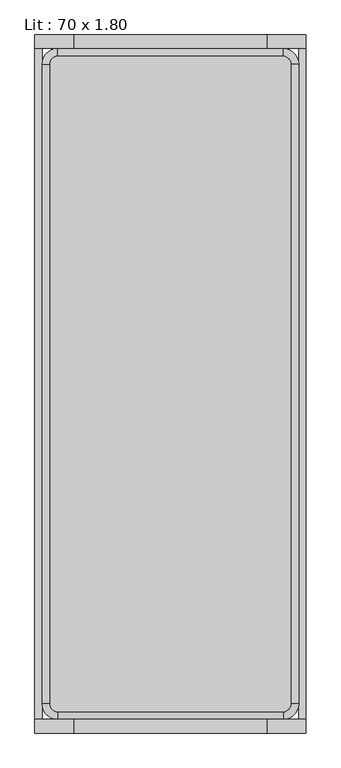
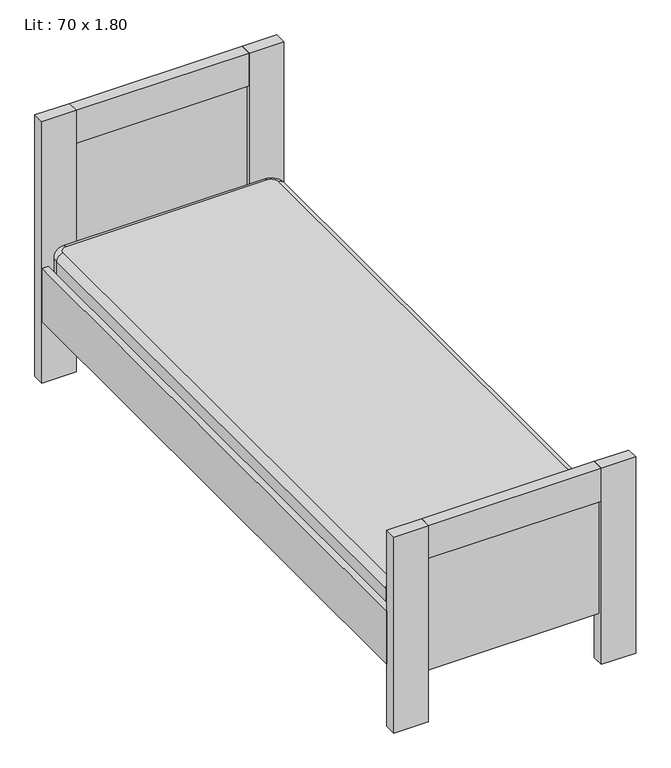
"""IFC4 building model written with IfcOpenShell, lengths in millimetres: furniture geometry, Lit : 70 x 1.80."""

import ifcopenshell
import ifcopenshell.guid

model = None  # the IFC model being written
_history = None  # IfcOwnerHistory: only IFC2X3 demands one
_inside = {}  # id of a spatial element -> (the spatial element, [elements in it])
_under = {}  # id of a project, library or spatial element -> (it, [spatial elements below it])
_declared = {}  # id of a project -> (the project, [libraries it declares])
_typed = {}  # id of a type object -> (the type object, [elements of that type])
_made_of = {}  # id of a material, layer set ... -> (it, [elements and type objects made of it])


def new_model(schema):
    """Start an empty IFC model of exactly this schema.

    Asked for "IFC4X3", IfcOpenShell would pick the latest addendum, in which some entities
    have other attributes; the version numbers below select the first issue.
    IFC2X3 requires an IfcOwnerHistory on every rooted entity: one is made here for all.
    """
    global model, _history
    if schema == "IFC4X3":
        model = ifcopenshell.file(schema_version=(4, 3, 0, 0))
    else:
        model = ifcopenshell.file(schema=schema)
    _inside.clear()
    _under.clear()
    _declared.clear()
    _typed.clear()
    _made_of.clear()
    _history = None
    if model.schema == "IFC2X3":
        org = make("IfcOrganization", Name="unknown")
        user = make(
            "IfcPersonAndOrganization",
            ThePerson=make("IfcPerson", FamilyName="unknown"),
            TheOrganization=org,
        )
        app = make(
            "IfcApplication",
            ApplicationDeveloper=org,
            Version="unknown",
            ApplicationFullName="unknown",
            ApplicationIdentifier="unknown",
        )
        _history = make(
            "IfcOwnerHistory",
            OwningUser=user,
            OwningApplication=app,
            ChangeAction="ADDED",
            CreationDate=0,
        )
    return model


def make(cls, **values):
    """One entity of the class cls with the attributes given. An attribute that is None is left unset."""
    return model.create_entity(
        cls, **{name: value for name, value in values.items() if value is not None}
    )


def rooted(cls, **values):
    """An entity with a GlobalId (a new one), such as an element, a storey or a relation."""
    return make(cls, GlobalId=ifcopenshell.guid.new(), OwnerHistory=_history, **values)


def si_unit(unit_type, name, prefix=None):
    """IfcSIUnit, for example si_unit("LENGTHUNIT", "METRE", prefix="MILLI")."""
    return make("IfcSIUnit", UnitType=unit_type, Prefix=prefix, Name=name)


def assignment(units):
    """IfcUnitAssignment: the units of a project."""
    return None if units is None else make("IfcUnitAssignment", Units=units)


def point(xyz):
    """IfcCartesianPoint."""
    return None if xyz is None else make("IfcCartesianPoint", Coordinates=xyz)


def direction(xyz):
    """IfcDirection."""
    return None if xyz is None else make("IfcDirection", DirectionRatios=xyz)


def frame(location, z_axis=None, x_axis=None):
    """IfcAxis2Placement3D, a coordinate frame: its origin and axes. An axis left out is left unset."""
    return make(
        "IfcAxis2Placement3D",
        Location=point(location),
        Axis=direction(z_axis),
        RefDirection=direction(x_axis),
    )


def origin():
    """The frame at (0, 0, 0) with its axes left unset."""
    return frame((0.0, 0.0, 0.0))


def place(relative_to, where):
    """IfcLocalPlacement: puts the frame where relative to a parent placement (None: the world)."""
    return make(
        "IfcLocalPlacement", PlacementRelTo=relative_to, RelativePlacement=where
    )


def context(
    kind, dimensions, precision=None, world=None, true_north=None, identifier=None
):
    """IfcGeometricRepresentationContext, for example the 3D "Model" context."""
    return make(
        "IfcGeometricRepresentationContext",
        ContextIdentifier=identifier,
        ContextType=kind,
        CoordinateSpaceDimension=dimensions,
        Precision=precision,
        WorldCoordinateSystem=world,
        TrueNorth=true_north,
    )


def project(units=None, contexts=None):
    """IfcProject with its units and contexts."""
    return rooted(
        "IfcProject",
        Name="project",
        RepresentationContexts=contexts,
        UnitsInContext=assignment(units),
    )


def spatial(cls, under=None, at=None, **own):
    """A site, building, storey or space (cls), placed at a placement, below another one or the project."""
    s = rooted(cls, ObjectPlacement=at, **own)
    if under is not None:
        _under.setdefault(under.id(), (under, []))[1].append(s)
    return s


def polyline(points):
    """IfcPolyline through the points."""
    return make("IfcPolyline", Points=[point(p) for p in points])


def circle_curve(where, radius):
    """IfcCircle in the frame where."""
    return make("IfcCircle", Position=where, Radius=radius)


def ellipse_curve(where, semi_axis1, semi_axis2):
    """IfcEllipse in the frame where."""
    return make(
        "IfcEllipse", Position=where, SemiAxis1=semi_axis1, SemiAxis2=semi_axis2
    )


def trimmed(basis, trim1, trim2, sense, master):
    """IfcTrimmedCurve: the piece of a basis curve between two trims."""
    return make(
        "IfcTrimmedCurve",
        BasisCurve=basis,
        Trim1=trim1,
        Trim2=trim2,
        SenseAgreement=sense,
        MasterRepresentation=master,
    )


def outline(outer, holes=None, kind="AREA"):
    """IfcArbitraryClosedProfileDef: a profile drawn as a closed curve; with holes, ...WithVoids."""
    if holes is None:
        return make("IfcArbitraryClosedProfileDef", ProfileType=kind, OuterCurve=outer)
    return make(
        "IfcArbitraryProfileDefWithVoids",
        ProfileType=kind,
        OuterCurve=outer,
        InnerCurves=holes,
    )


def extrude(swept, where, along, depth):
    """IfcExtrudedAreaSolid: the profile swept, set in the frame where, extruded along a direction by depth."""
    return make(
        "IfcExtrudedAreaSolid",
        SweptArea=swept,
        Position=where,
        ExtrudedDirection=direction(along),
        Depth=depth,
    )


def faces_of(points, faces, orient=None, outer=None):
    """IfcFace entities. A face is a list of loops; a loop is a list of indices into points, from 0.

    orient and outer hold one flag for each loop. By default every Orientation is true, the
    first loop of a face is its IfcFaceOuterBound and the others are IfcFaceBound.
    """
    made = []
    for i, loops in enumerate(faces):
        bounds = []
        for j, loop in enumerate(loops):
            is_outer = j == 0 if outer is None else outer[i][j]
            bounds.append(
                make(
                    "IfcFaceOuterBound" if is_outer else "IfcFaceBound",
                    Bound=make("IfcPolyLoop", Polygon=[points[k] for k in loop]),
                    Orientation=True if orient is None else orient[i][j],
                )
            )
        made.append(make("IfcFace", Bounds=bounds))
    return made


def faceted_brep(points, faces, orient=None, outer=None, voids=None):
    """IfcFacetedBrep: a solid bounded by flat faces; with voids (closed shells), ...WithVoids."""
    shared = [point(p) for p in points]
    hull = make("IfcClosedShell", CfsFaces=faces_of(shared, faces, orient, outer))
    if voids is None:
        return make("IfcFacetedBrep", Outer=hull)
    return make(
        "IfcFacetedBrepWithVoids",
        Outer=hull,
        Voids=[
            make(cls, CfsFaces=faces_of(shared, fs, o, b)) for cls, fs, o, b in voids
        ],
    )


def shape(context_of_items, identifier, shape_type, items):
    """IfcShapeRepresentation: the items that make up one representation, for example the "Body"."""
    return make(
        "IfcShapeRepresentation",
        ContextOfItems=context_of_items,
        RepresentationIdentifier=identifier,
        RepresentationType=shape_type,
        Items=items,
    )


def source(mapping_origin, context_of_items, identifier, shape_type, items):
    """IfcRepresentationMap: a shape defined once, which mapped items show again and again."""
    return make(
        "IfcRepresentationMap",
        MappingOrigin=mapping_origin,
        MappedRepresentation=shape(context_of_items, identifier, shape_type, items),
    )


def transform(
    local_origin,
    x_axis=None,
    y_axis=None,
    z_axis=None,
    scale=None,
    scale2=None,
    scale3=None,
    uniform=True,
):
    """IfcCartesianTransformationOperator3D, or its non-uniform kind. x_axis, y_axis, z_axis: its Axis1, 2, 3."""
    if uniform:
        return make(
            "IfcCartesianTransformationOperator3D",
            Axis1=direction(x_axis),
            Axis2=direction(y_axis),
            LocalOrigin=point(local_origin),
            Scale=scale,
            Axis3=direction(z_axis),
        )
    return make(
        "IfcCartesianTransformationOperator3DnonUniform",
        Axis1=direction(x_axis),
        Axis2=direction(y_axis),
        LocalOrigin=point(local_origin),
        Scale=scale,
        Axis3=direction(z_axis),
        Scale2=scale2,
        Scale3=scale3,
    )


def mapped(mapping_source, mapping_target):
    """IfcMappedItem: shows the shape of a source again, moved by a transform."""
    return make(
        "IfcMappedItem", MappingSource=mapping_source, MappingTarget=mapping_target
    )


def made_of(thing, what):
    """Note that an element or type object is made of a material, layer set ...; save() writes the relation."""
    if what is not None:
        _made_of.setdefault(what.id(), (what, []))[1].append(thing)
    return thing


def element(
    cls,
    number,
    at=None,
    inside=None,
    cuts=None,
    type_object=None,
    material=None,
    context=None,
    identifier="Body",
    shape_type=None,
    held_by="IfcProductDefinitionShape",
    body=None,
    shapes=None,
    **own,
):
    """One element of the class cls, such as IfcWall. Its Tag is "e" and its number.

    at: its placement. inside: the storey or other place that contains it. cuts: it is an
    opening in that element (IfcRelVoidsElement). A single representation is given by context,
    identifier, shape_type and body (its items); several are given by shapes. held_by: the class
    of the entity that holds the representations. save() writes the other relations.
    """
    e = rooted(cls, Tag="e%d" % number, ObjectPlacement=at, **own)
    if body is not None:
        shapes = [shape(context, identifier, shape_type, body)]
    if shapes is not None:
        e.Representation = make(held_by, Representations=shapes)
    if inside is not None:
        _inside.setdefault(inside.id(), (inside, []))[1].append(e)
    if cuts is not None:
        rooted(
            "IfcRelVoidsElement", RelatingBuildingElement=cuts, RelatedOpeningElement=e
        )
    if type_object is not None:
        _typed.setdefault(type_object.id(), (type_object, []))[1].append(e)
    return made_of(e, material)


def aggregate(whole, parts):
    """IfcRelAggregates: a whole, such as a stair, and the parts it consists of."""
    return rooted("IfcRelAggregates", RelatingObject=whole, RelatedObjects=parts)


def save(model, path):
    """Write the relations noted so far, then the file.

    IfcRelAggregates (storeys below a building ...), IfcRelContainedInSpatialStructure (elements
    in a storey), IfcRelDefinesByType, IfcRelAssociatesMaterial and IfcRelDeclares: one each for
    every whole, place, type object, material and project.
    """
    for whole, parts in _under.values():
        aggregate(whole, parts)
    for where, things in _inside.values():
        rooted(
            "IfcRelContainedInSpatialStructure",
            RelatedElements=things,
            RelatingStructure=where,
        )
    for kind, things in _typed.values():
        rooted("IfcRelDefinesByType", RelatedObjects=things, RelatingType=kind)
    for what, things in _made_of.values():
        rooted("IfcRelAssociatesMaterial", RelatedObjects=things, RelatingMaterial=what)
    for by, libraries in _declared.values():
        rooted("IfcRelDeclares", RelatingContext=by, RelatedDefinitions=libraries)
    model.write(path)


def plane_surface(at):
    """IfcPlane: the flat surface through the origin of the frame at, square to its z axis."""
    return make("IfcPlane", Position=at)


def cylinder_surface(at, radius):
    """IfcCylindricalSurface: all points at the distance radius from the z axis of the frame at."""
    return make("IfcCylindricalSurface", Position=at, Radius=radius)


def revolved_surface(curve, axis_point, axis_direction):
    """IfcSurfaceOfRevolution: the curve turned about the line through axis_point along axis_direction."""
    return make(
        "IfcSurfaceOfRevolution",
        SweptCurve=make("IfcArbitraryOpenProfileDef", ProfileType="CURVE", Curve=curve),
        AxisPosition=make("IfcAxis1Placement", Location=point(axis_point), Axis=direction(axis_direction)),
    )


def advanced_brep(points, edges, surfaces, faces):
    """IfcAdvancedBrep: a solid bounded by faces that lie on surfaces and meet in shared edges.

    An edge is (start, end): straight between two places in points (the first is 0);
    or (start, end, curve); or (start, end, curve, False) where it runs against its curve.
    A face is (place in surfaces, loops), or (place, loops, False) where it looks against
    its surface's normal. A loop lists edges by number (the first is 1), with a minus sign
    where the edge is run from its end to its start. The first loop is the outer one.
    """
    corners = [point(p) for p in points]
    vertices = [make("IfcVertexPoint", VertexGeometry=c) for c in corners]
    made = []
    for start, end, *more in edges:
        made.append(
            make(
                "IfcEdgeCurve",
                EdgeStart=vertices[start],
                EdgeEnd=vertices[end],
                EdgeGeometry=more[0] if more else make("IfcPolyline", Points=[corners[start], corners[end]]),
                SameSense=more[1] if len(more) > 1 else True,
            )
        )
    hull = []
    for where, loops, *sense in faces:
        bounds = []
        for j, loop in enumerate(loops):
            ring = [make("IfcOrientedEdge", EdgeElement=made[abs(k) - 1], Orientation=k > 0) for k in loop]
            bounds.append(
                make(
                    "IfcFaceOuterBound" if j == 0 else "IfcFaceBound",
                    Bound=make("IfcEdgeLoop", EdgeList=ring),
                    Orientation=True,
                )
            )
        hull.append(make("IfcAdvancedFace", Bounds=bounds, FaceSurface=surfaces[where], SameSense=sense[0] if sense else True))
    return make("IfcAdvancedBrep", Outer=make("IfcClosedShell", CfsFaces=hull))


def lit_70_x_1_80_ef4a9673(model_context):
    return source(origin(), model_context, "Body", "SolidModel", [
        advanced_brep(
        [(-311.0, -1725.0, 410.0), (-291.0, -1745.0, 410.0), (291.0, -1745.0, 410.0), (311.0, -1725.0, 410.0), (311.0, -75.0, 410.0), (291.0, -55.0, 410.0), (-291.0, -55.0, 410.0), (-311.0, -75.0, 410.0), (291.0, -35.0, 260.0), (331.0, -75.0, 260.0), (331.0, -1725.0, 260.0), (291.0, -1765.0, 260.0), (-291.0, -1765.0, 260.0), (-331.0, -1725.0, 260.0), (-331.0, -75.0, 260.0), (-291.0, -35.0, 260.0), (-291.0, -35.0, 390.0), (291.0, -35.0, 390.0), (-331.0, -75.0, 390.0000163), (-331.0, -1725.0, 390.0000167), (-291.0, -1765.0, 390.0000191), (291.0, -1765.0, 390.0), (331.0, -1725.0, 390.0000165), (331.0, -75.0, 390.0)],
        [
            (0, 1, circle_curve(frame((-291.0, -1725.0, 410.0), z_axis=(0.0, 0.0, 1.0), x_axis=(-1.0, 0.0, 0.0)), 20.0)),
            (1, 2),
            (2, 3, circle_curve(frame((291.0, -1725.0, 410.0), z_axis=(0.0, 0.0, 1.0), x_axis=(0.0, -1.0, 0.0)), 20.0)),
            (3, 4),
            (4, 5, circle_curve(frame((291.0, -75.0, 410.0), z_axis=(0.0, 0.0, 1.0), x_axis=(1.0, 0.0, 0.0)), 20.0)),
            (5, 6),
            (6, 7, circle_curve(frame((-291.0, -75.0, 410.0), z_axis=(0.0, 0.0, 1.0), x_axis=(0.0, 1.0, 0.0)), 20.0)),
            (7, 0),
            (8, 9, circle_curve(frame((291.0, -75.0, 260.0), z_axis=(0.0, 0.0, -1.0), x_axis=(0.0, -1.0, 0.0)), 40.0)),
            (9, 10),
            (10, 11, circle_curve(frame((291.0, -1725.0, 260.0), z_axis=(0.0, 0.0, -1.0), x_axis=(0.0, -1.0, 0.0)), 40.0)),
            (11, 12),
            (12, 13, circle_curve(frame((-291.0, -1725.0, 260.0), z_axis=(0.0, 0.0, -1.0), x_axis=(0.0, -1.0, 0.0)), 40.0)),
            (13, 14),
            (14, 15, circle_curve(frame((-291.0, -75.0, 260.0), z_axis=(0.0, 0.0, -1.0), x_axis=(0.0, -1.0, 0.0)), 40.0)),
            (15, 8),
            (15, 16),
            (16, 17),
            (17, 8),
            (14, 18),
            (18, 16, circle_curve(frame((-291.0, -75.0, 390.0), z_axis=(0.0, 0.0, -1.0), x_axis=(0.0, -1.0, 0.0)), 40.0)),
            (13, 19),
            (19, 18),
            (12, 20),
            (20, 19, circle_curve(frame((-291.0, -1725.0, 390.0), z_axis=(0.0, 0.0, -1.0), x_axis=(0.0, -1.0, 0.0)), 40.0)),
            (11, 21),
            (21, 20),
            (10, 22),
            (22, 21, circle_curve(frame((291.0, -1725.0, 390.0), z_axis=(0.0, 0.0, -1.0), x_axis=(0.0, -1.0, 0.0)), 40.0)),
            (9, 23),
            (23, 22),
            (17, 23, circle_curve(frame((291.0, -75.0, 390.0), z_axis=(0.0, 0.0, -1.0), x_axis=(0.0, -1.0, 0.0)), 40.0)),
            (20, 1, circle_curve(frame((-291.0, -1745.0, 390.0), z_axis=(-1.0, 0.0, 0.0), x_axis=(0.0, 1.0, 0.0)), 20.0)),
            (0, 19, circle_curve(frame((-311.0, -1725.0, 390.0), z_axis=(0.0, -1.0, 0.0), x_axis=(1.0, 0.0, 0.0)), 20.0)),
            (21, 2, circle_curve(frame((291.0, -1745.0, 390.0), z_axis=(-1.0, 0.0, 0.0), x_axis=(0.0, 1.0, 0.0)), 20.0)),
            (22, 3, circle_curve(frame((311.0, -1725.0, 390.0), z_axis=(0.0, -1.0, 0.0), x_axis=(-1.0, 0.0, 0.0)), 20.0)),
            (23, 4, circle_curve(frame((311.0, -75.0, 390.0), z_axis=(0.0, -1.0, 0.0), x_axis=(-1.0, 0.0, 0.0)), 20.0)),
            (17, 5, circle_curve(frame((291.0, -55.0, 390.0), z_axis=(1.0, 0.0, 0.0), x_axis=(0.0, -1.0, 0.0)), 20.0)),
            (16, 6, circle_curve(frame((-291.0, -55.0, 390.0), z_axis=(1.0, 0.0, 0.0), x_axis=(0.0, -1.0, 0.0)), 20.0)),
            (18, 7, circle_curve(frame((-311.0, -75.0, 390.0), z_axis=(0.0, 1.0, 0.0), x_axis=(1.0, 0.0, 0.0)), 20.0)),
        ],
        [
            plane_surface(frame((-291.0, -35.0, 410.0), z_axis=(0.0, 0.0, 1.0), x_axis=(-1.0, 0.0, 0.0))),
            plane_surface(frame((-291.0, -35.0, 260.0), z_axis=(0.0, 0.0, -1.0), x_axis=(1.0, 0.0, 0.0))),
            plane_surface(frame((291.0, -35.0, 410.0), z_axis=(0.0, 1.0, 0.0), x_axis=(0.0, 0.0, -1.0))),
            cylinder_surface(frame((-291.0, -75.0, 260.0), z_axis=(0.0, 0.0, 1.0), x_axis=(0.0, -1.0, 0.0)), 40.0),
            plane_surface(frame((-331.0, -75.0, 410.0), z_axis=(-1.0, 0.0, 0.0), x_axis=(0.0, 0.0, -1.0))),
            cylinder_surface(frame((-291.0, -1725.0, 260.0), z_axis=(0.0, 0.0, 1.0), x_axis=(0.0, -1.0, 0.0)), 40.0),
            plane_surface(frame((-291.0, -1765.0, 410.0), z_axis=(0.0, -1.0, 0.0), x_axis=(0.0, 0.0, -1.0))),
            cylinder_surface(frame((291.0, -1725.0, 260.0), z_axis=(0.0, 0.0, 1.0), x_axis=(0.0, -1.0, 0.0)), 40.0),
            plane_surface(frame((331.0, -1725.0, 410.0), z_axis=(1.0, 0.0, 0.0), x_axis=(0.0, 0.0, -1.0))),
            cylinder_surface(frame((291.0, -75.0, 260.0), z_axis=(0.0, 0.0, 1.0), x_axis=(0.0, -1.0, 0.0)), 40.0),
            revolved_surface(trimmed(ellipse_curve(frame((-311.0, -1725.0, 390.0), z_axis=(0.0, 1.0, 0.0), x_axis=(1.0, 0.0, 0.0)), 20.0, 20.0), [point((-331.0, -1725.0, 390.0))], [point((-311.0, -1725.0, 410.0))], True, "CARTESIAN"), (-291.0, -1725.0, 410.0), (0.0, 0.0, 1.0)),
            cylinder_surface(frame((-291.0, -1745.0, 390.0), z_axis=(1.0, 0.0, 0.0), x_axis=(0.0, 1.0, 0.0)), 20.0),
            revolved_surface(trimmed(ellipse_curve(frame((291.0, -1745.0, 390.0), z_axis=(-1.0, 0.0, 0.0), x_axis=(0.0, 1.0, 0.0)), 20.0, 20.0), [point((291.0, -1765.0, 390.0))], [point((291.0, -1745.0, 410.0))], True, "CARTESIAN"), (291.0, -1725.0, 410.0), (0.0, 0.0, 1.0)),
            cylinder_surface(frame((311.0, -1725.0, 390.0), z_axis=(0.0, 1.0, 0.0), x_axis=(-1.0, 0.0, 0.0)), 20.0),
            revolved_surface(trimmed(ellipse_curve(frame((311.0, -75.0, 390.0), z_axis=(0.0, -1.0, 0.0), x_axis=(-1.0, 0.0, 0.0)), 20.0, 20.0), [point((331.0, -75.0, 390.0))], [point((311.0, -75.0, 410.0))], True, "CARTESIAN"), (291.0, -75.0, 410.0), (0.0, 0.0, 1.0)),
            cylinder_surface(frame((291.0, -55.0, 390.0), z_axis=(-1.0, 0.0, 0.0), x_axis=(0.0, -1.0, 0.0)), 20.0),
            revolved_surface(trimmed(ellipse_curve(frame((-291.0, -55.0, 390.0), z_axis=(1.0, 0.0, 0.0), x_axis=(0.0, -1.0, 0.0)), 20.0, 20.0), [point((-291.0, -35.0, 390.0))], [point((-291.0, -55.0, 410.0))], True, "CARTESIAN"), (-291.0, -75.0, 410.0), (0.0, 0.0, 1.0)),
            cylinder_surface(frame((-311.0, -75.0, 390.0), z_axis=(0.0, -1.0, 0.0), x_axis=(1.0, 0.0, 0.0)), 20.0),
        ],
        [
            (0, [[1, 2, 3, 4, 5, 6, 7, 8]]),
            (1, [[9, 10, 11, 12, 13, 14, 15, 16]]),
            (2, [[-16, 17, 18, 19]]),
            (3, [[-15, 20, 21, -17]]),
            (4, [[-14, 22, 23, -20]]),
            (5, [[-13, 24, 25, -22]]),
            (6, [[-12, 26, 27, -24]]),
            (7, [[-11, 28, 29, -26]]),
            (8, [[-10, 30, 31, -28]]),
            (9, [[-9, -19, 32, -30]]),
            (10, [[33, -1, 34, -25]]),
            (11, [[-33, -27, 35, -2]]),
            (12, [[-35, -29, 36, -3]]),
            (13, [[-36, -31, 37, -4]]),
            (14, [[-37, -32, 38, -5]]),
            (15, [[-38, -18, 39, -6]]),
            (16, [[-39, -21, 40, -7]]),
            (17, [[-34, -8, -40, -23]]),
        ],
    ),
        faceted_brep([(-250.0, -35.0, 800.0), (-250.0, 0.0, 800.0), (-350.0, 0.0, 800.0), (-350.0, -35.0, 800.0), (-250.0, -35.0, 0.0), (-350.0, -35.0, 0.0), (-350.0, 0.0, 0.0), (-250.0, 0.0, 0.0), (-250.0, -35.0, 410.0), (-250.0, -35.0, 390.0)], [[[0, 1, 2, 3]], [[4, 5, 6, 7]], [[1, 0, 8, 9, 4, 7]], [[2, 1, 7, 6]], [[3, 2, 6, 5]], [[0, 3, 5, 4, 9, 8]]]),
        faceted_brep([(350.0, -35.0, 800.0), (350.0, 0.0, 800.0), (250.0, 0.0, 800.0), (250.0, -35.0, 800.0), (350.0, -35.0, 0.0), (250.0, -35.0, 0.0), (250.0, 0.0, 0.0), (350.0, 0.0, 0.0), (250.0, -35.0, 390.0), (250.0, -35.0, 410.0)], [[[0, 1, 2, 3]], [[4, 5, 6, 7]], [[1, 0, 4, 7]], [[2, 1, 7, 6]], [[3, 2, 6, 5, 8, 9]], [[0, 3, 9, 8, 5, 4]]]),
        faceted_brep([(-250.0, -1800.0, 600.0), (-250.0, -1765.0, 600.0), (-350.0, -1765.0, 600.0), (-350.0, -1800.0, 600.0), (-250.0, -1800.0, 0.0), (-350.0, -1800.0, 0.0), (-350.0, -1765.0, 0.0), (-250.0, -1765.0, 0.0), (-250.0, -1765.0, 390.0), (-250.0, -1765.0, 410.0)], [[[0, 1, 2, 3]], [[4, 5, 6, 7]], [[1, 0, 4, 7, 8, 9]], [[2, 1, 9, 8, 7, 6]], [[3, 2, 6, 5]], [[0, 3, 5, 4]]]),
        faceted_brep([(250.0, -1800.0, 600.0), (350.0, -1800.0, 600.0), (350.0, -1765.0, 600.0), (250.0, -1765.0, 600.0), (250.0, -1800.0, 0.0), (250.0, -1765.0, 0.0), (350.0, -1765.0, 0.0), (350.0, -1800.0, 0.0), (250.0, -1765.0, 390.0), (250.0, -1765.0, 410.0)], [[[0, 1, 2, 3]], [[4, 5, 6, 7]], [[1, 0, 4, 7]], [[2, 1, 7, 6]], [[3, 2, 6, 5, 8, 9]], [[0, 3, 9, 8, 5, 4]]]),
        extrude(outline(polyline([(350.0, -35.0), (350.0, -1765.0), (331.0, -1765.0), (331.0, -35.0), (350.0, -35.0)])), frame((0.0, 0.0, 190.0), z_axis=(0.0, 0.0, 1.0), x_axis=(1.0, 0.0, 0.0)), (0.0, 0.0, 1.0), 162.0),
        extrude(outline(polyline([(-331.0, -35.0), (-331.0, -1765.0), (-350.0, -1765.0), (-350.0, -35.0), (-331.0, -35.0)])), frame((0.0, 0.0, 190.0), z_axis=(0.0, 0.0, 1.0), x_axis=(1.0, 0.0, 0.0)), (0.0, 0.0, 1.0), 162.0),
        extrude(outline(polyline([(250.0, -35.0), (-250.0, -35.0), (-250.0, 0.0), (250.0, 0.0), (250.0, -35.0)])), frame((0.0, 0.0, 700.0), z_axis=(0.0, 0.0, 1.0), x_axis=(1.0, 0.0, 0.0)), (0.0, 0.0, 1.0), 100.0),
        extrude(outline(polyline([(-250.0, -1765.0), (250.0, -1765.0), (250.0, -1800.0), (-250.0, -1800.0), (-250.0, -1765.0)])), frame((0.0, 0.0, 500.0), z_axis=(0.0, 0.0, 1.0), x_axis=(1.0, 0.0, 0.0)), (0.0, 0.0, 1.0), 100.0),
        extrude(outline(polyline([(250.0, -25.0), (-250.0, -25.0), (-250.0, -10.0), (250.0, -10.0), (250.0, -25.0)])), frame((0.0, 0.0, 150.0), z_axis=(0.0, 0.0, 1.0), x_axis=(1.0, 0.0, 0.0)), (0.0, 0.0, 1.0), 550.0),
        extrude(outline(polyline([(-250.0, -1775.0), (250.0, -1775.0), (250.0, -1790.0), (-250.0, -1790.0), (-250.0, -1775.0)])), frame((0.0, 0.0, 150.0), z_axis=(0.0, 0.0, 1.0), x_axis=(1.0, 0.0, 0.0)), (0.0, 0.0, 1.0), 350.0),
    ])


if __name__ == "__main__":
    model = new_model("IFC4")
    model_context = context("Model", 3, world=origin())
    ifc_project = project(units=[si_unit("LENGTHUNIT", "METRE", prefix="MILLI")], contexts=[model_context])
    site = spatial("IfcSite", under=ifc_project)
    building = spatial("IfcBuilding", under=site)
    placement = place(None, origin())
    lit_70_x_1_80_shape = lit_70_x_1_80_ef4a9673(model_context)
    element("IfcFurniture", 1, ObjectType="Lit : 70 x 1.80", at=placement, inside=building, context=model_context, shape_type="MappedRepresentation", body=[
        mapped(lit_70_x_1_80_shape, transform((0.0, 0.0, 0.0), x_axis=(1.0, 0.0, 0.0), y_axis=(0.0, 1.0, 0.0), z_axis=(0.0, 0.0, 1.0))),
    ])
    save(model, "model.ifc")
